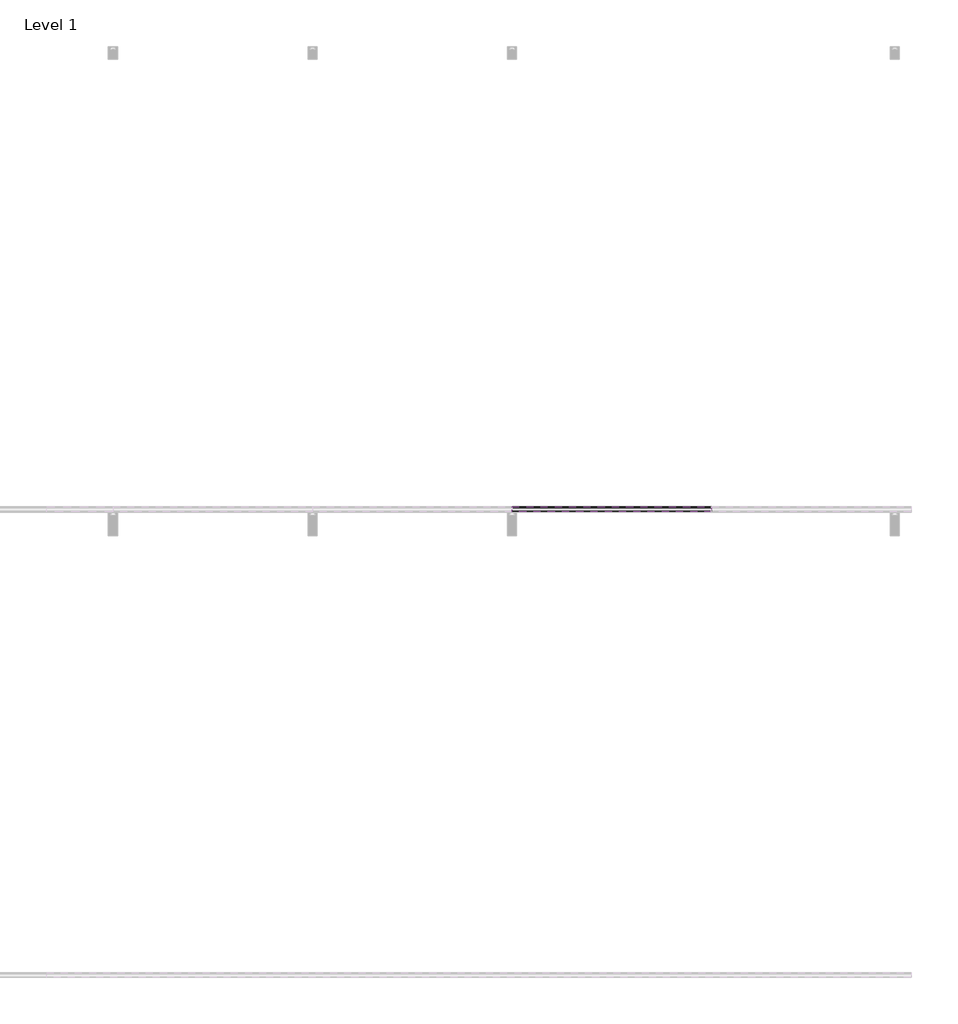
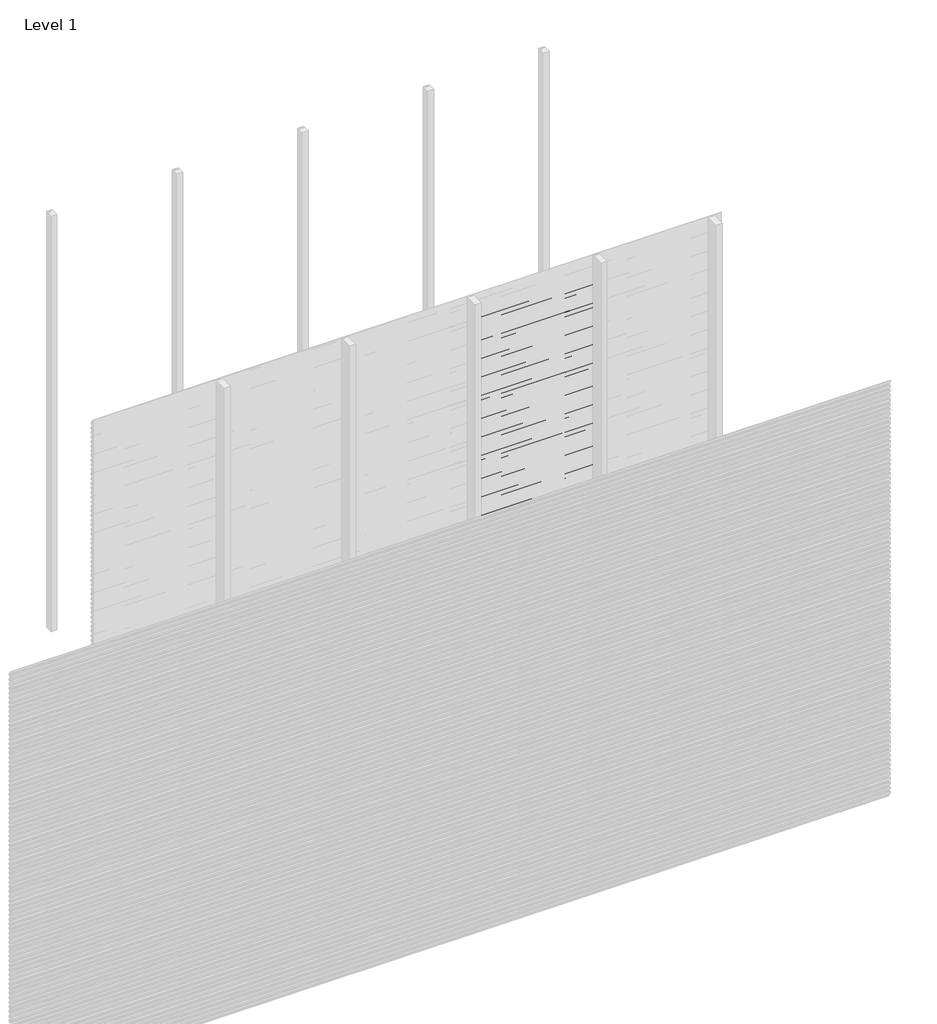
# One storey, part 39 of 96: 76 proxies.
"""IFC4 building model written with IfcOpenShell, lengths in millimetres."""

import ifcopenshell
import ifcopenshell.guid

model = None  # the IFC model being written
_history = None  # IfcOwnerHistory: only IFC2X3 demands one
_inside = {}  # id of a spatial element -> (the spatial element, [elements in it])
_under = {}  # id of a project, library or spatial element -> (it, [spatial elements below it])
_declared = {}  # id of a project -> (the project, [libraries it declares])
_typed = {}  # id of a type object -> (the type object, [elements of that type])
_made_of = {}  # id of a material, layer set ... -> (it, [elements and type objects made of it])


def new_model(schema):
    """Start an empty IFC model of exactly this schema.

    Asked for "IFC4X3", IfcOpenShell would pick the latest addendum, in which some entities
    have other attributes; the version numbers below select the first issue.
    IFC2X3 requires an IfcOwnerHistory on every rooted entity: one is made here for all.
    """
    global model, _history
    if schema == "IFC4X3":
        model = ifcopenshell.file(schema_version=(4, 3, 0, 0))
    else:
        model = ifcopenshell.file(schema=schema)
    _inside.clear()
    _under.clear()
    _declared.clear()
    _typed.clear()
    _made_of.clear()
    _history = None
    if model.schema == "IFC2X3":
        org = make("IfcOrganization", Name="unknown")
        user = make(
            "IfcPersonAndOrganization",
            ThePerson=make("IfcPerson", FamilyName="unknown"),
            TheOrganization=org,
        )
        app = make(
            "IfcApplication",
            ApplicationDeveloper=org,
            Version="unknown",
            ApplicationFullName="unknown",
            ApplicationIdentifier="unknown",
        )
        _history = make(
            "IfcOwnerHistory",
            OwningUser=user,
            OwningApplication=app,
            ChangeAction="ADDED",
            CreationDate=0,
        )
    return model


def make(cls, **values):
    """One entity of the class cls with the attributes given. An attribute that is None is left unset."""
    return model.create_entity(
        cls, **{name: value for name, value in values.items() if value is not None}
    )


def rooted(cls, **values):
    """An entity with a GlobalId (a new one), such as an element, a storey or a relation."""
    return make(cls, GlobalId=ifcopenshell.guid.new(), OwnerHistory=_history, **values)


def si_unit(unit_type, name, prefix=None):
    """IfcSIUnit, for example si_unit("LENGTHUNIT", "METRE", prefix="MILLI")."""
    return make("IfcSIUnit", UnitType=unit_type, Prefix=prefix, Name=name)


def assignment(units):
    """IfcUnitAssignment: the units of a project."""
    return None if units is None else make("IfcUnitAssignment", Units=units)


def point(xyz):
    """IfcCartesianPoint."""
    return None if xyz is None else make("IfcCartesianPoint", Coordinates=xyz)


def direction(xyz):
    """IfcDirection."""
    return None if xyz is None else make("IfcDirection", DirectionRatios=xyz)


def frame(location, z_axis=None, x_axis=None):
    """IfcAxis2Placement3D, a coordinate frame: its origin and axes. An axis left out is left unset."""
    return make(
        "IfcAxis2Placement3D",
        Location=point(location),
        Axis=direction(z_axis),
        RefDirection=direction(x_axis),
    )


def origin():
    """The frame at (0, 0, 0) with its axes left unset."""
    return frame((0.0, 0.0, 0.0))


def place(relative_to, where):
    """IfcLocalPlacement: puts the frame where relative to a parent placement (None: the world)."""
    return make(
        "IfcLocalPlacement", PlacementRelTo=relative_to, RelativePlacement=where
    )


def context(
    kind, dimensions, precision=None, world=None, true_north=None, identifier=None
):
    """IfcGeometricRepresentationContext, for example the 3D "Model" context."""
    return make(
        "IfcGeometricRepresentationContext",
        ContextIdentifier=identifier,
        ContextType=kind,
        CoordinateSpaceDimension=dimensions,
        Precision=precision,
        WorldCoordinateSystem=world,
        TrueNorth=true_north,
    )


def project(units=None, contexts=None):
    """IfcProject with its units and contexts."""
    return rooted(
        "IfcProject",
        Name="project",
        RepresentationContexts=contexts,
        UnitsInContext=assignment(units),
    )


def spatial(cls, under=None, at=None, **own):
    """A site, building, storey or space (cls), placed at a placement, below another one or the project."""
    s = rooted(cls, ObjectPlacement=at, **own)
    if under is not None:
        _under.setdefault(under.id(), (under, []))[1].append(s)
    return s


def polyline(points):
    """IfcPolyline through the points."""
    return make("IfcPolyline", Points=[point(p) for p in points])


def outline(outer, holes=None, kind="AREA"):
    """IfcArbitraryClosedProfileDef: a profile drawn as a closed curve; with holes, ...WithVoids."""
    if holes is None:
        return make("IfcArbitraryClosedProfileDef", ProfileType=kind, OuterCurve=outer)
    return make(
        "IfcArbitraryProfileDefWithVoids",
        ProfileType=kind,
        OuterCurve=outer,
        InnerCurves=holes,
    )


def extrude(swept, where, along, depth):
    """IfcExtrudedAreaSolid: the profile swept, set in the frame where, extruded along a direction by depth."""
    return make(
        "IfcExtrudedAreaSolid",
        SweptArea=swept,
        Position=where,
        ExtrudedDirection=direction(along),
        Depth=depth,
    )


def shape(context_of_items, identifier, shape_type, items):
    """IfcShapeRepresentation: the items that make up one representation, for example the "Body"."""
    return make(
        "IfcShapeRepresentation",
        ContextOfItems=context_of_items,
        RepresentationIdentifier=identifier,
        RepresentationType=shape_type,
        Items=items,
    )


def made_of(thing, what):
    """Note that an element or type object is made of a material, layer set ...; save() writes the relation."""
    if what is not None:
        _made_of.setdefault(what.id(), (what, []))[1].append(thing)
    return thing


def element(
    cls,
    number,
    at=None,
    inside=None,
    cuts=None,
    type_object=None,
    material=None,
    context=None,
    identifier="Body",
    shape_type=None,
    held_by="IfcProductDefinitionShape",
    body=None,
    shapes=None,
    **own,
):
    """One element of the class cls, such as IfcWall. Its Tag is "e" and its number.

    at: its placement. inside: the storey or other place that contains it. cuts: it is an
    opening in that element (IfcRelVoidsElement). A single representation is given by context,
    identifier, shape_type and body (its items); several are given by shapes. held_by: the class
    of the entity that holds the representations. save() writes the other relations.
    """
    e = rooted(cls, Tag="e%d" % number, ObjectPlacement=at, **own)
    if body is not None:
        shapes = [shape(context, identifier, shape_type, body)]
    if shapes is not None:
        e.Representation = make(held_by, Representations=shapes)
    if inside is not None:
        _inside.setdefault(inside.id(), (inside, []))[1].append(e)
    if cuts is not None:
        rooted(
            "IfcRelVoidsElement", RelatingBuildingElement=cuts, RelatedOpeningElement=e
        )
    if type_object is not None:
        _typed.setdefault(type_object.id(), (type_object, []))[1].append(e)
    return made_of(e, material)


def aggregate(whole, parts):
    """IfcRelAggregates: a whole, such as a stair, and the parts it consists of."""
    return rooted("IfcRelAggregates", RelatingObject=whole, RelatedObjects=parts)


def save(model, path):
    """Write the relations noted so far, then the file.

    IfcRelAggregates (storeys below a building ...), IfcRelContainedInSpatialStructure (elements
    in a storey), IfcRelDefinesByType, IfcRelAssociatesMaterial and IfcRelDeclares: one each for
    every whole, place, type object, material and project.
    """
    for whole, parts in _under.values():
        aggregate(whole, parts)
    for where, things in _inside.values():
        rooted(
            "IfcRelContainedInSpatialStructure",
            RelatedElements=things,
            RelatingStructure=where,
        )
    for kind, things in _typed.values():
        rooted("IfcRelDefinesByType", RelatedObjects=things, RelatingType=kind)
    for what, things in _made_of.values():
        rooted("IfcRelAssociatesMaterial", RelatedObjects=things, RelatingMaterial=what)
    for by, libraries in _declared.values():
        rooted("IfcRelDeclares", RelatingContext=by, RelatedDefinitions=libraries)
    model.write(path)


model = new_model("IFC4")

# Units and contexts
model_context = context("Model", 3, world=origin())
ifc_project = project(units=[si_unit("LENGTHUNIT", "METRE", prefix="MILLI")], contexts=[model_context])

# Site, building, storey
site = spatial("IfcSite", under=ifc_project)
building = spatial("IfcBuilding", under=site)
storey = spatial("IfcBuildingStorey", under=building, Name="Level 1", Elevation=0.0)

# Proxies
placement = place(None, origin())
element("IfcBuildingElementProxy", 1, Name="Wall Sweeps", at=placement, inside=storey, context=model_context, shape_type="SweptSolid", body=[
    extrude(outline(polyline([(-35977.6, 2871.8655033), (-35977.6, 2857.5779188), (-35982.4114965, 2854.8), (-35982.4114965, 2856.0701706), (-35978.85, 2858.1264016), (-35978.85, 2871.1437382), (-35998.0, 2882.2000799), (-35998.0, 2897.1), (-35996.75, 2897.1), (-35996.75, 2882.9217609), (-35977.6, 2871.8655033)])), frame((4285.7142857, 0.0, 0.0), z_axis=(1.0, 0.0, 0.0), x_axis=(0.0, 1.0, 0.0)), (0.0, 0.0, 1.0), 857.1428571),
])
element("IfcBuildingElementProxy", 2, Name="Wall Sweeps", at=placement, inside=storey, context=model_context, shape_type="SweptSolid", body=[
    extrude(outline(polyline([(-35977.6, 2838.5655033), (-35977.6, 2824.2779188), (-35982.4114965, 2821.5), (-35982.4114965, 2822.7701706), (-35978.85, 2824.8264016), (-35978.85, 2837.8437382), (-35998.0, 2848.9000799), (-35998.0, 2863.8), (-35996.75, 2863.8), (-35996.75, 2849.6217609), (-35977.6, 2838.5655033)])), frame((4285.7142857, 0.0, 0.0), z_axis=(1.0, 0.0, 0.0), x_axis=(0.0, 1.0, 0.0)), (0.0, 0.0, 1.0), 857.1428571),
])
element("IfcBuildingElementProxy", 3, Name="Wall Sweeps", at=placement, inside=storey, context=model_context, shape_type="SweptSolid", body=[
    extrude(outline(polyline([(-35977.6, 2805.2655033), (-35977.6, 2790.9779188), (-35982.4114965, 2788.2), (-35982.4114965, 2789.4701706), (-35978.85, 2791.5264016), (-35978.85, 2804.5437382), (-35998.0, 2815.6000799), (-35998.0, 2830.5), (-35996.75, 2830.5), (-35996.75, 2816.3217609), (-35977.6, 2805.2655033)])), frame((4285.7142857, 0.0, 0.0), z_axis=(1.0, 0.0, 0.0), x_axis=(0.0, 1.0, 0.0)), (0.0, 0.0, 1.0), 857.1428571),
])
element("IfcBuildingElementProxy", 4, Name="Wall Sweeps", at=placement, inside=storey, context=model_context, shape_type="SweptSolid", body=[
    extrude(outline(polyline([(-35977.6, 2771.9655033), (-35977.6, 2757.6779188), (-35982.4114965, 2754.9), (-35982.4114965, 2756.1701706), (-35978.85, 2758.2264016), (-35978.85, 2771.2437382), (-35998.0, 2782.3000799), (-35998.0, 2797.2), (-35996.75, 2797.2), (-35996.75, 2783.0217609), (-35977.6, 2771.9655033)])), frame((4285.7142857, 0.0, 0.0), z_axis=(1.0, 0.0, 0.0), x_axis=(0.0, 1.0, 0.0)), (0.0, 0.0, 1.0), 857.1428571),
])
element("IfcBuildingElementProxy", 5, Name="Wall Sweeps", at=placement, inside=storey, context=model_context, shape_type="SweptSolid", body=[
    extrude(outline(polyline([(-35977.6, 2738.6655033), (-35977.6, 2724.3779188), (-35982.4114965, 2721.6), (-35982.4114965, 2722.8701706), (-35978.85, 2724.9264016), (-35978.85, 2737.9437382), (-35998.0, 2749.0000799), (-35998.0, 2763.9), (-35996.75, 2763.9), (-35996.75, 2749.7217609), (-35977.6, 2738.6655033)])), frame((4285.7142857, 0.0, 0.0), z_axis=(1.0, 0.0, 0.0), x_axis=(0.0, 1.0, 0.0)), (0.0, 0.0, 1.0), 857.1428571),
])
element("IfcBuildingElementProxy", 6, Name="Wall Sweeps", at=placement, inside=storey, context=model_context, shape_type="SweptSolid", body=[
    extrude(outline(polyline([(-35977.6, 2705.3655033), (-35977.6, 2691.0779188), (-35982.4114965, 2688.3), (-35982.4114965, 2689.5701706), (-35978.85, 2691.6264016), (-35978.85, 2704.6437382), (-35998.0, 2715.7000799), (-35998.0, 2730.6), (-35996.75, 2730.6), (-35996.75, 2716.4217609), (-35977.6, 2705.3655033)])), frame((4285.7142857, 0.0, 0.0), z_axis=(1.0, 0.0, 0.0), x_axis=(0.0, 1.0, 0.0)), (0.0, 0.0, 1.0), 857.1428571),
])
element("IfcBuildingElementProxy", 7, Name="Wall Sweeps", at=placement, inside=storey, context=model_context, shape_type="SweptSolid", body=[
    extrude(outline(polyline([(-35977.6, 2672.0655033), (-35977.6, 2657.7779188), (-35982.4114965, 2655.0), (-35982.4114965, 2656.2701706), (-35978.85, 2658.3264016), (-35978.85, 2671.3437382), (-35998.0, 2682.4000799), (-35998.0, 2697.3), (-35996.75, 2697.3), (-35996.75, 2683.1217609), (-35977.6, 2672.0655033)])), frame((4285.7142857, 0.0, 0.0), z_axis=(1.0, 0.0, 0.0), x_axis=(0.0, 1.0, 0.0)), (0.0, 0.0, 1.0), 857.1428571),
])
element("IfcBuildingElementProxy", 8, Name="Wall Sweeps", at=placement, inside=storey, context=model_context, shape_type="SweptSolid", body=[
    extrude(outline(polyline([(-35977.6, 2638.7655033), (-35977.6, 2624.4779188), (-35982.4114965, 2621.7), (-35982.4114965, 2622.9701706), (-35978.85, 2625.0264016), (-35978.85, 2638.0437382), (-35998.0, 2649.1000799), (-35998.0, 2664.0), (-35996.75, 2664.0), (-35996.75, 2649.8217609), (-35977.6, 2638.7655033)])), frame((4285.7142857, 0.0, 0.0), z_axis=(1.0, 0.0, 0.0), x_axis=(0.0, 1.0, 0.0)), (0.0, 0.0, 1.0), 857.1428571),
])
element("IfcBuildingElementProxy", 9, Name="Wall Sweeps", at=placement, inside=storey, context=model_context, shape_type="SweptSolid", body=[
    extrude(outline(polyline([(-35977.6, 2605.4655033), (-35977.6, 2591.1779188), (-35982.4114965, 2588.4), (-35982.4114965, 2589.6701706), (-35978.85, 2591.7264016), (-35978.85, 2604.7437382), (-35998.0, 2615.8000799), (-35998.0, 2630.7), (-35996.75, 2630.7), (-35996.75, 2616.5217609), (-35977.6, 2605.4655033)])), frame((4285.7142857, 0.0, 0.0), z_axis=(1.0, 0.0, 0.0), x_axis=(0.0, 1.0, 0.0)), (0.0, 0.0, 1.0), 857.1428571),
])
element("IfcBuildingElementProxy", 10, Name="Wall Sweeps", at=placement, inside=storey, context=model_context, shape_type="SweptSolid", body=[
    extrude(outline(polyline([(-35977.6, 2572.1655033), (-35977.6, 2557.8779188), (-35982.4114965, 2555.1), (-35982.4114965, 2556.3701706), (-35978.85, 2558.4264016), (-35978.85, 2571.4437382), (-35998.0, 2582.5000799), (-35998.0, 2597.4), (-35996.75, 2597.4), (-35996.75, 2583.2217609), (-35977.6, 2572.1655033)])), frame((4285.7142857, 0.0, 0.0), z_axis=(1.0, 0.0, 0.0), x_axis=(0.0, 1.0, 0.0)), (0.0, 0.0, 1.0), 857.1428571),
])
element("IfcBuildingElementProxy", 11, Name="Wall Sweeps", at=placement, inside=storey, context=model_context, shape_type="SweptSolid", body=[
    extrude(outline(polyline([(-35977.6, 2538.8655033), (-35977.6, 2524.5779188), (-35982.4114965, 2521.8), (-35982.4114965, 2523.0701706), (-35978.85, 2525.1264016), (-35978.85, 2538.1437382), (-35998.0, 2549.2000799), (-35998.0, 2564.1), (-35996.75, 2564.1), (-35996.75, 2549.9217609), (-35977.6, 2538.8655033)])), frame((4285.7142857, 0.0, 0.0), z_axis=(1.0, 0.0, 0.0), x_axis=(0.0, 1.0, 0.0)), (0.0, 0.0, 1.0), 857.1428571),
])
element("IfcBuildingElementProxy", 12, Name="Wall Sweeps", at=placement, inside=storey, context=model_context, shape_type="SweptSolid", body=[
    extrude(outline(polyline([(-35977.6, 2505.5655033), (-35977.6, 2491.2779188), (-35982.4114965, 2488.5), (-35982.4114965, 2489.7701706), (-35978.85, 2491.8264016), (-35978.85, 2504.8437382), (-35998.0, 2515.9000799), (-35998.0, 2530.8), (-35996.75, 2530.8), (-35996.75, 2516.6217609), (-35977.6, 2505.5655033)])), frame((4285.7142857, 0.0, 0.0), z_axis=(1.0, 0.0, 0.0), x_axis=(0.0, 1.0, 0.0)), (0.0, 0.0, 1.0), 857.1428571),
])
element("IfcBuildingElementProxy", 13, Name="Wall Sweeps", at=placement, inside=storey, context=model_context, shape_type="SweptSolid", body=[
    extrude(outline(polyline([(-35977.6, 2472.2655033), (-35977.6, 2457.9779188), (-35982.4114965, 2455.2), (-35982.4114965, 2456.4701706), (-35978.85, 2458.5264016), (-35978.85, 2471.5437382), (-35998.0, 2482.6000799), (-35998.0, 2497.5), (-35996.75, 2497.5), (-35996.75, 2483.3217609), (-35977.6, 2472.2655033)])), frame((4285.7142857, 0.0, 0.0), z_axis=(1.0, 0.0, 0.0), x_axis=(0.0, 1.0, 0.0)), (0.0, 0.0, 1.0), 857.1428571),
])
element("IfcBuildingElementProxy", 14, Name="Wall Sweeps", at=placement, inside=storey, context=model_context, shape_type="SweptSolid", body=[
    extrude(outline(polyline([(-35977.6, 2438.9655033), (-35977.6, 2424.6779188), (-35982.4114965, 2421.9), (-35982.4114965, 2423.1701706), (-35978.85, 2425.2264016), (-35978.85, 2438.2437382), (-35998.0, 2449.3000799), (-35998.0, 2464.2), (-35996.75, 2464.2), (-35996.75, 2450.0217609), (-35977.6, 2438.9655033)])), frame((4285.7142857, 0.0, 0.0), z_axis=(1.0, 0.0, 0.0), x_axis=(0.0, 1.0, 0.0)), (0.0, 0.0, 1.0), 857.1428571),
])
element("IfcBuildingElementProxy", 15, Name="Wall Sweeps", at=placement, inside=storey, context=model_context, shape_type="SweptSolid", body=[
    extrude(outline(polyline([(-35977.6, 2405.6655033), (-35977.6, 2391.3779188), (-35982.4114965, 2388.6), (-35982.4114965, 2389.8701706), (-35978.85, 2391.9264016), (-35978.85, 2404.9437382), (-35998.0, 2416.0000799), (-35998.0, 2430.9), (-35996.75, 2430.9), (-35996.75, 2416.7217609), (-35977.6, 2405.6655033)])), frame((4285.7142857, 0.0, 0.0), z_axis=(1.0, 0.0, 0.0), x_axis=(0.0, 1.0, 0.0)), (0.0, 0.0, 1.0), 857.1428571),
])
element("IfcBuildingElementProxy", 16, Name="Wall Sweeps", at=placement, inside=storey, context=model_context, shape_type="SweptSolid", body=[
    extrude(outline(polyline([(-35977.6, 2372.3655033), (-35977.6, 2358.0779188), (-35982.4114965, 2355.3), (-35982.4114965, 2356.5701706), (-35978.85, 2358.6264016), (-35978.85, 2371.6437382), (-35998.0, 2382.7000799), (-35998.0, 2397.6), (-35996.75, 2397.6), (-35996.75, 2383.4217609), (-35977.6, 2372.3655033)])), frame((4285.7142857, 0.0, 0.0), z_axis=(1.0, 0.0, 0.0), x_axis=(0.0, 1.0, 0.0)), (0.0, 0.0, 1.0), 857.1428571),
])
element("IfcBuildingElementProxy", 17, Name="Wall Sweeps", at=placement, inside=storey, context=model_context, shape_type="SweptSolid", body=[
    extrude(outline(polyline([(-35977.6, 2339.0655033), (-35977.6, 2324.7779188), (-35982.4114965, 2322.0), (-35982.4114965, 2323.2701706), (-35978.85, 2325.3264016), (-35978.85, 2338.3437382), (-35998.0, 2349.4000799), (-35998.0, 2364.3), (-35996.75, 2364.3), (-35996.75, 2350.1217609), (-35977.6, 2339.0655033)])), frame((4285.7142857, 0.0, 0.0), z_axis=(1.0, 0.0, 0.0), x_axis=(0.0, 1.0, 0.0)), (0.0, 0.0, 1.0), 857.1428571),
])
element("IfcBuildingElementProxy", 18, Name="Wall Sweeps", at=placement, inside=storey, context=model_context, shape_type="SweptSolid", body=[
    extrude(outline(polyline([(-35977.6, 2305.7655033), (-35977.6, 2291.4779188), (-35982.4114965, 2288.7), (-35982.4114965, 2289.9701706), (-35978.85, 2292.0264016), (-35978.85, 2305.0437382), (-35998.0, 2316.1000799), (-35998.0, 2331.0), (-35996.75, 2331.0), (-35996.75, 2316.8217609), (-35977.6, 2305.7655033)])), frame((4285.7142857, 0.0, 0.0), z_axis=(1.0, 0.0, 0.0), x_axis=(0.0, 1.0, 0.0)), (0.0, 0.0, 1.0), 857.1428571),
])
element("IfcBuildingElementProxy", 19, Name="Wall Sweeps", at=placement, inside=storey, context=model_context, shape_type="SweptSolid", body=[
    extrude(outline(polyline([(-35977.6, 2272.4655033), (-35977.6, 2258.1779188), (-35982.4114965, 2255.4), (-35982.4114965, 2256.6701706), (-35978.85, 2258.7264016), (-35978.85, 2271.7437382), (-35998.0, 2282.8000799), (-35998.0, 2297.7), (-35996.75, 2297.7), (-35996.75, 2283.5217609), (-35977.6, 2272.4655033)])), frame((4285.7142857, 0.0, 0.0), z_axis=(1.0, 0.0, 0.0), x_axis=(0.0, 1.0, 0.0)), (0.0, 0.0, 1.0), 857.1428571),
])
element("IfcBuildingElementProxy", 20, Name="Wall Sweeps", at=placement, inside=storey, context=model_context, shape_type="SweptSolid", body=[
    extrude(outline(polyline([(-35977.6, 2239.1655033), (-35977.6, 2224.8779188), (-35982.4114965, 2222.1), (-35982.4114965, 2223.3701706), (-35978.85, 2225.4264016), (-35978.85, 2238.4437382), (-35998.0, 2249.5000799), (-35998.0, 2264.4), (-35996.75, 2264.4), (-35996.75, 2250.2217609), (-35977.6, 2239.1655033)])), frame((4285.7142857, 0.0, 0.0), z_axis=(1.0, 0.0, 0.0), x_axis=(0.0, 1.0, 0.0)), (0.0, 0.0, 1.0), 857.1428571),
])
element("IfcBuildingElementProxy", 21, Name="Wall Sweeps", at=placement, inside=storey, context=model_context, shape_type="SweptSolid", body=[
    extrude(outline(polyline([(-35977.6, 2205.8655033), (-35977.6, 2191.5779188), (-35982.4114965, 2188.8), (-35982.4114965, 2190.0701706), (-35978.85, 2192.1264016), (-35978.85, 2205.1437382), (-35998.0, 2216.2000799), (-35998.0, 2231.1), (-35996.75, 2231.1), (-35996.75, 2216.9217609), (-35977.6, 2205.8655033)])), frame((4285.7142857, 0.0, 0.0), z_axis=(1.0, 0.0, 0.0), x_axis=(0.0, 1.0, 0.0)), (0.0, 0.0, 1.0), 857.1428571),
])
element("IfcBuildingElementProxy", 22, Name="Wall Sweeps", at=placement, inside=storey, context=model_context, shape_type="SweptSolid", body=[
    extrude(outline(polyline([(-35977.6, 2172.5655033), (-35977.6, 2158.2779188), (-35982.4114965, 2155.5), (-35982.4114965, 2156.7701706), (-35978.85, 2158.8264016), (-35978.85, 2171.8437382), (-35998.0, 2182.9000799), (-35998.0, 2197.8), (-35996.75, 2197.8), (-35996.75, 2183.6217609), (-35977.6, 2172.5655033)])), frame((4285.7142857, 0.0, 0.0), z_axis=(1.0, 0.0, 0.0), x_axis=(0.0, 1.0, 0.0)), (0.0, 0.0, 1.0), 857.1428571),
])
element("IfcBuildingElementProxy", 23, Name="Wall Sweeps", at=placement, inside=storey, context=model_context, shape_type="SweptSolid", body=[
    extrude(outline(polyline([(-35977.6, 2139.2655033), (-35977.6, 2124.9779188), (-35982.4114965, 2122.2), (-35982.4114965, 2123.4701706), (-35978.85, 2125.5264016), (-35978.85, 2138.5437382), (-35998.0, 2149.6000799), (-35998.0, 2164.5), (-35996.75, 2164.5), (-35996.75, 2150.3217609), (-35977.6, 2139.2655033)])), frame((4285.7142857, 0.0, 0.0), z_axis=(1.0, 0.0, 0.0), x_axis=(0.0, 1.0, 0.0)), (0.0, 0.0, 1.0), 857.1428571),
])
element("IfcBuildingElementProxy", 24, Name="Wall Sweeps", at=placement, inside=storey, context=model_context, shape_type="SweptSolid", body=[
    extrude(outline(polyline([(-35977.6, 2105.9655033), (-35977.6, 2091.6779188), (-35982.4114965, 2088.9), (-35982.4114965, 2090.1701706), (-35978.85, 2092.2264016), (-35978.85, 2105.2437382), (-35998.0, 2116.3000799), (-35998.0, 2131.2), (-35996.75, 2131.2), (-35996.75, 2117.0217609), (-35977.6, 2105.9655033)])), frame((4285.7142857, 0.0, 0.0), z_axis=(1.0, 0.0, 0.0), x_axis=(0.0, 1.0, 0.0)), (0.0, 0.0, 1.0), 857.1428571),
])
element("IfcBuildingElementProxy", 25, Name="Wall Sweeps", at=placement, inside=storey, context=model_context, shape_type="SweptSolid", body=[
    extrude(outline(polyline([(-35977.6, 2072.6655033), (-35977.6, 2058.3779188), (-35982.4114965, 2055.6), (-35982.4114965, 2056.8701706), (-35978.85, 2058.9264016), (-35978.85, 2071.9437382), (-35998.0, 2083.0000799), (-35998.0, 2097.9), (-35996.75, 2097.9), (-35996.75, 2083.7217609), (-35977.6, 2072.6655033)])), frame((4285.7142857, 0.0, 0.0), z_axis=(1.0, 0.0, 0.0), x_axis=(0.0, 1.0, 0.0)), (0.0, 0.0, 1.0), 857.1428571),
])
element("IfcBuildingElementProxy", 26, Name="Wall Sweeps", at=placement, inside=storey, context=model_context, shape_type="SweptSolid", body=[
    extrude(outline(polyline([(-35977.6, 2039.3655033), (-35977.6, 2025.0779188), (-35982.4114965, 2022.3), (-35982.4114965, 2023.5701706), (-35978.85, 2025.6264016), (-35978.85, 2038.6437382), (-35998.0, 2049.7000799), (-35998.0, 2064.6), (-35996.75, 2064.6), (-35996.75, 2050.4217609), (-35977.6, 2039.3655033)])), frame((4285.7142857, 0.0, 0.0), z_axis=(1.0, 0.0, 0.0), x_axis=(0.0, 1.0, 0.0)), (0.0, 0.0, 1.0), 857.1428571),
])
element("IfcBuildingElementProxy", 27, Name="Wall Sweeps", at=placement, inside=storey, context=model_context, shape_type="SweptSolid", body=[
    extrude(outline(polyline([(-35977.6, 2006.0655033), (-35977.6, 1991.7779188), (-35982.4114965, 1989.0), (-35982.4114965, 1990.2701706), (-35978.85, 1992.3264016), (-35978.85, 2005.3437382), (-35998.0, 2016.4000799), (-35998.0, 2031.3), (-35996.75, 2031.3), (-35996.75, 2017.1217609), (-35977.6, 2006.0655033)])), frame((4285.7142857, 0.0, 0.0), z_axis=(1.0, 0.0, 0.0), x_axis=(0.0, 1.0, 0.0)), (0.0, 0.0, 1.0), 857.1428571),
])
element("IfcBuildingElementProxy", 28, Name="Wall Sweeps", at=placement, inside=storey, context=model_context, shape_type="SweptSolid", body=[
    extrude(outline(polyline([(-35977.6, 1972.7655033), (-35977.6, 1958.4779188), (-35982.4114965, 1955.7), (-35982.4114965, 1956.9701706), (-35978.85, 1959.0264016), (-35978.85, 1972.0437382), (-35998.0, 1983.1000799), (-35998.0, 1998.0), (-35996.75, 1998.0), (-35996.75, 1983.8217609), (-35977.6, 1972.7655033)])), frame((4285.7142857, 0.0, 0.0), z_axis=(1.0, 0.0, 0.0), x_axis=(0.0, 1.0, 0.0)), (0.0, 0.0, 1.0), 857.1428571),
])
element("IfcBuildingElementProxy", 29, Name="Wall Sweeps", at=placement, inside=storey, context=model_context, shape_type="SweptSolid", body=[
    extrude(outline(polyline([(-35977.6, 1939.4655033), (-35977.6, 1925.1779188), (-35982.4114965, 1922.4), (-35982.4114965, 1923.6701706), (-35978.85, 1925.7264016), (-35978.85, 1938.7437382), (-35998.0, 1949.8000799), (-35998.0, 1964.7), (-35996.75, 1964.7), (-35996.75, 1950.5217609), (-35977.6, 1939.4655033)])), frame((4285.7142857, 0.0, 0.0), z_axis=(1.0, 0.0, 0.0), x_axis=(0.0, 1.0, 0.0)), (0.0, 0.0, 1.0), 857.1428571),
])
element("IfcBuildingElementProxy", 30, Name="Wall Sweeps", at=placement, inside=storey, context=model_context, shape_type="SweptSolid", body=[
    extrude(outline(polyline([(-35977.6, 1906.1655033), (-35977.6, 1891.8779188), (-35982.4114965, 1889.1), (-35982.4114965, 1890.3701706), (-35978.85, 1892.4264016), (-35978.85, 1905.4437382), (-35998.0, 1916.5000799), (-35998.0, 1931.4), (-35996.75, 1931.4), (-35996.75, 1917.2217609), (-35977.6, 1906.1655033)])), frame((4285.7142857, 0.0, 0.0), z_axis=(1.0, 0.0, 0.0), x_axis=(0.0, 1.0, 0.0)), (0.0, 0.0, 1.0), 857.1428571),
])
element("IfcBuildingElementProxy", 31, Name="Wall Sweeps", at=placement, inside=storey, context=model_context, shape_type="SweptSolid", body=[
    extrude(outline(polyline([(-35977.6, 1872.8655033), (-35977.6, 1858.5779188), (-35982.4114965, 1855.8), (-35982.4114965, 1857.0701706), (-35978.85, 1859.1264016), (-35978.85, 1872.1437382), (-35998.0, 1883.2000799), (-35998.0, 1898.1), (-35996.75, 1898.1), (-35996.75, 1883.9217609), (-35977.6, 1872.8655033)])), frame((4285.7142857, 0.0, 0.0), z_axis=(1.0, 0.0, 0.0), x_axis=(0.0, 1.0, 0.0)), (0.0, 0.0, 1.0), 857.1428571),
])
element("IfcBuildingElementProxy", 32, Name="Wall Sweeps", at=placement, inside=storey, context=model_context, shape_type="SweptSolid", body=[
    extrude(outline(polyline([(-35977.6, 1839.5655033), (-35977.6, 1825.2779188), (-35982.4114965, 1822.5), (-35982.4114965, 1823.7701706), (-35978.85, 1825.8264016), (-35978.85, 1838.8437382), (-35998.0, 1849.9000799), (-35998.0, 1864.8), (-35996.75, 1864.8), (-35996.75, 1850.6217609), (-35977.6, 1839.5655033)])), frame((4285.7142857, 0.0, 0.0), z_axis=(1.0, 0.0, 0.0), x_axis=(0.0, 1.0, 0.0)), (0.0, 0.0, 1.0), 857.1428571),
])
element("IfcBuildingElementProxy", 33, Name="Wall Sweeps", at=placement, inside=storey, context=model_context, shape_type="SweptSolid", body=[
    extrude(outline(polyline([(-35977.6, 1806.2655033), (-35977.6, 1791.9779188), (-35982.4114965, 1789.2), (-35982.4114965, 1790.4701706), (-35978.85, 1792.5264016), (-35978.85, 1805.5437382), (-35998.0, 1816.6000799), (-35998.0, 1831.5), (-35996.75, 1831.5), (-35996.75, 1817.3217609), (-35977.6, 1806.2655033)])), frame((4285.7142857, 0.0, 0.0), z_axis=(1.0, 0.0, 0.0), x_axis=(0.0, 1.0, 0.0)), (0.0, 0.0, 1.0), 857.1428571),
])
element("IfcBuildingElementProxy", 34, Name="Wall Sweeps", at=placement, inside=storey, context=model_context, shape_type="SweptSolid", body=[
    extrude(outline(polyline([(-35977.6, 1772.9655033), (-35977.6, 1758.6779188), (-35982.4114965, 1755.9), (-35982.4114965, 1757.1701706), (-35978.85, 1759.2264016), (-35978.85, 1772.2437382), (-35998.0, 1783.3000799), (-35998.0, 1798.2), (-35996.75, 1798.2), (-35996.75, 1784.0217609), (-35977.6, 1772.9655033)])), frame((4285.7142857, 0.0, 0.0), z_axis=(1.0, 0.0, 0.0), x_axis=(0.0, 1.0, 0.0)), (0.0, 0.0, 1.0), 857.1428571),
])
element("IfcBuildingElementProxy", 35, Name="Wall Sweeps", at=placement, inside=storey, context=model_context, shape_type="SweptSolid", body=[
    extrude(outline(polyline([(-35977.6, 1739.6655033), (-35977.6, 1725.3779188), (-35982.4114965, 1722.6), (-35982.4114965, 1723.8701706), (-35978.85, 1725.9264016), (-35978.85, 1738.9437382), (-35998.0, 1750.0000799), (-35998.0, 1764.9), (-35996.75, 1764.9), (-35996.75, 1750.7217609), (-35977.6, 1739.6655033)])), frame((4285.7142857, 0.0, 0.0), z_axis=(1.0, 0.0, 0.0), x_axis=(0.0, 1.0, 0.0)), (0.0, 0.0, 1.0), 857.1428571),
])
element("IfcBuildingElementProxy", 36, Name="Wall Sweeps", at=placement, inside=storey, context=model_context, shape_type="SweptSolid", body=[
    extrude(outline(polyline([(-35977.6, 1706.3655033), (-35977.6, 1692.0779188), (-35982.4114965, 1689.3), (-35982.4114965, 1690.5701706), (-35978.85, 1692.6264016), (-35978.85, 1705.6437382), (-35998.0, 1716.7000799), (-35998.0, 1731.6), (-35996.75, 1731.6), (-35996.75, 1717.4217609), (-35977.6, 1706.3655033)])), frame((4285.7142857, 0.0, 0.0), z_axis=(1.0, 0.0, 0.0), x_axis=(0.0, 1.0, 0.0)), (0.0, 0.0, 1.0), 857.1428571),
])
element("IfcBuildingElementProxy", 37, Name="Wall Sweeps", at=placement, inside=storey, context=model_context, shape_type="SweptSolid", body=[
    extrude(outline(polyline([(-35977.6, 1673.0655033), (-35977.6, 1658.7779188), (-35982.4114965, 1656.0), (-35982.4114965, 1657.2701706), (-35978.85, 1659.3264016), (-35978.85, 1672.3437382), (-35998.0, 1683.4000799), (-35998.0, 1698.3), (-35996.75, 1698.3), (-35996.75, 1684.1217609), (-35977.6, 1673.0655033)])), frame((4285.7142857, 0.0, 0.0), z_axis=(1.0, 0.0, 0.0), x_axis=(0.0, 1.0, 0.0)), (0.0, 0.0, 1.0), 857.1428571),
])
element("IfcBuildingElementProxy", 38, Name="Wall Sweeps", at=placement, inside=storey, context=model_context, shape_type="SweptSolid", body=[
    extrude(outline(polyline([(-35977.6, 1639.7655033), (-35977.6, 1625.4779188), (-35982.4114965, 1622.7), (-35982.4114965, 1623.9701706), (-35978.85, 1626.0264016), (-35978.85, 1639.0437382), (-35998.0, 1650.1000799), (-35998.0, 1665.0), (-35996.75, 1665.0), (-35996.75, 1650.8217609), (-35977.6, 1639.7655033)])), frame((4285.7142857, 0.0, 0.0), z_axis=(1.0, 0.0, 0.0), x_axis=(0.0, 1.0, 0.0)), (0.0, 0.0, 1.0), 857.1428571),
])
element("IfcBuildingElementProxy", 39, Name="Wall Sweeps", at=placement, inside=storey, context=model_context, shape_type="SweptSolid", body=[
    extrude(outline(polyline([(-35977.6, 1606.4655033), (-35977.6, 1592.1779188), (-35982.4114965, 1589.4), (-35982.4114965, 1590.6701706), (-35978.85, 1592.7264016), (-35978.85, 1605.7437382), (-35998.0, 1616.8000799), (-35998.0, 1631.7), (-35996.75, 1631.7), (-35996.75, 1617.5217609), (-35977.6, 1606.4655033)])), frame((4285.7142857, 0.0, 0.0), z_axis=(1.0, 0.0, 0.0), x_axis=(0.0, 1.0, 0.0)), (0.0, 0.0, 1.0), 857.1428571),
])
element("IfcBuildingElementProxy", 40, Name="Wall Sweeps", at=placement, inside=storey, context=model_context, shape_type="SweptSolid", body=[
    extrude(outline(polyline([(-35977.6, 1573.1655033), (-35977.6, 1558.8779188), (-35982.4114965, 1556.1), (-35982.4114965, 1557.3701706), (-35978.85, 1559.4264016), (-35978.85, 1572.4437382), (-35998.0, 1583.5000799), (-35998.0, 1598.4), (-35996.75, 1598.4), (-35996.75, 1584.2217609), (-35977.6, 1573.1655033)])), frame((4285.7142857, 0.0, 0.0), z_axis=(1.0, 0.0, 0.0), x_axis=(0.0, 1.0, 0.0)), (0.0, 0.0, 1.0), 857.1428571),
])
element("IfcBuildingElementProxy", 41, Name="Wall Sweeps", at=placement, inside=storey, context=model_context, shape_type="SweptSolid", body=[
    extrude(outline(polyline([(-35977.6, 1539.8655033), (-35977.6, 1525.5779188), (-35982.4114965, 1522.8), (-35982.4114965, 1524.0701706), (-35978.85, 1526.1264016), (-35978.85, 1539.1437382), (-35998.0, 1550.2000799), (-35998.0, 1565.1), (-35996.75, 1565.1), (-35996.75, 1550.9217609), (-35977.6, 1539.8655033)])), frame((4285.7142857, 0.0, 0.0), z_axis=(1.0, 0.0, 0.0), x_axis=(0.0, 1.0, 0.0)), (0.0, 0.0, 1.0), 857.1428571),
])
element("IfcBuildingElementProxy", 42, Name="Wall Sweeps", at=placement, inside=storey, context=model_context, shape_type="SweptSolid", body=[
    extrude(outline(polyline([(-35977.6, 1506.5655033), (-35977.6, 1492.2779188), (-35982.4114965, 1489.5), (-35982.4114965, 1490.7701706), (-35978.85, 1492.8264016), (-35978.85, 1505.8437382), (-35998.0, 1516.9000799), (-35998.0, 1531.8), (-35996.75, 1531.8), (-35996.75, 1517.6217609), (-35977.6, 1506.5655033)])), frame((4285.7142857, 0.0, 0.0), z_axis=(1.0, 0.0, 0.0), x_axis=(0.0, 1.0, 0.0)), (0.0, 0.0, 1.0), 857.1428571),
])
element("IfcBuildingElementProxy", 43, Name="Wall Sweeps", at=placement, inside=storey, context=model_context, shape_type="SweptSolid", body=[
    extrude(outline(polyline([(-35977.6, 1473.2655033), (-35977.6, 1458.9779188), (-35982.4114965, 1456.2), (-35982.4114965, 1457.4701706), (-35978.85, 1459.5264016), (-35978.85, 1472.5437382), (-35998.0, 1483.6000799), (-35998.0, 1498.5), (-35996.75, 1498.5), (-35996.75, 1484.3217609), (-35977.6, 1473.2655033)])), frame((4285.7142857, 0.0, 0.0), z_axis=(1.0, 0.0, 0.0), x_axis=(0.0, 1.0, 0.0)), (0.0, 0.0, 1.0), 857.1428571),
])
element("IfcBuildingElementProxy", 44, Name="Wall Sweeps", at=placement, inside=storey, context=model_context, shape_type="SweptSolid", body=[
    extrude(outline(polyline([(-35977.6, 1439.9655033), (-35977.6, 1425.6779188), (-35982.4114965, 1422.9), (-35982.4114965, 1424.1701706), (-35978.85, 1426.2264016), (-35978.85, 1439.2437382), (-35998.0, 1450.3000799), (-35998.0, 1465.2), (-35996.75, 1465.2), (-35996.75, 1451.0217609), (-35977.6, 1439.9655033)])), frame((4285.7142857, 0.0, 0.0), z_axis=(1.0, 0.0, 0.0), x_axis=(0.0, 1.0, 0.0)), (0.0, 0.0, 1.0), 857.1428571),
])
element("IfcBuildingElementProxy", 45, Name="Wall Sweeps", at=placement, inside=storey, context=model_context, shape_type="SweptSolid", body=[
    extrude(outline(polyline([(-35977.6, 1406.6655033), (-35977.6, 1392.3779188), (-35982.4114965, 1389.6), (-35982.4114965, 1390.8701706), (-35978.85, 1392.9264016), (-35978.85, 1405.9437382), (-35998.0, 1417.0000799), (-35998.0, 1431.9), (-35996.75, 1431.9), (-35996.75, 1417.7217609), (-35977.6, 1406.6655033)])), frame((4285.7142857, 0.0, 0.0), z_axis=(1.0, 0.0, 0.0), x_axis=(0.0, 1.0, 0.0)), (0.0, 0.0, 1.0), 857.1428571),
])
element("IfcBuildingElementProxy", 46, Name="Wall Sweeps", at=placement, inside=storey, context=model_context, shape_type="SweptSolid", body=[
    extrude(outline(polyline([(-35977.6, 1373.3655033), (-35977.6, 1359.0779188), (-35982.4114965, 1356.3), (-35982.4114965, 1357.5701706), (-35978.85, 1359.6264016), (-35978.85, 1372.6437382), (-35998.0, 1383.7000799), (-35998.0, 1398.6), (-35996.75, 1398.6), (-35996.75, 1384.4217609), (-35977.6, 1373.3655033)])), frame((4285.7142857, 0.0, 0.0), z_axis=(1.0, 0.0, 0.0), x_axis=(0.0, 1.0, 0.0)), (0.0, 0.0, 1.0), 857.1428571),
])
element("IfcBuildingElementProxy", 47, Name="Wall Sweeps", at=placement, inside=storey, context=model_context, shape_type="SweptSolid", body=[
    extrude(outline(polyline([(-35977.6, 1340.0655033), (-35977.6, 1325.7779188), (-35982.4114965, 1323.0), (-35982.4114965, 1324.2701706), (-35978.85, 1326.3264016), (-35978.85, 1339.3437382), (-35998.0, 1350.4000799), (-35998.0, 1365.3), (-35996.75, 1365.3), (-35996.75, 1351.1217609), (-35977.6, 1340.0655033)])), frame((4285.7142857, 0.0, 0.0), z_axis=(1.0, 0.0, 0.0), x_axis=(0.0, 1.0, 0.0)), (0.0, 0.0, 1.0), 857.1428571),
])
element("IfcBuildingElementProxy", 48, Name="Wall Sweeps", at=placement, inside=storey, context=model_context, shape_type="SweptSolid", body=[
    extrude(outline(polyline([(-35977.6, 1306.7655033), (-35977.6, 1292.4779188), (-35982.4114965, 1289.7), (-35982.4114965, 1290.9701706), (-35978.85, 1293.0264016), (-35978.85, 1306.0437382), (-35998.0, 1317.1000799), (-35998.0, 1332.0), (-35996.75, 1332.0), (-35996.75, 1317.8217609), (-35977.6, 1306.7655033)])), frame((4285.7142857, 0.0, 0.0), z_axis=(1.0, 0.0, 0.0), x_axis=(0.0, 1.0, 0.0)), (0.0, 0.0, 1.0), 857.1428571),
])
element("IfcBuildingElementProxy", 49, Name="Wall Sweeps", at=placement, inside=storey, context=model_context, shape_type="SweptSolid", body=[
    extrude(outline(polyline([(-35977.6, 1273.4655033), (-35977.6, 1259.1779188), (-35982.4114965, 1256.4), (-35982.4114965, 1257.6701706), (-35978.85, 1259.7264016), (-35978.85, 1272.7437382), (-35998.0, 1283.8000799), (-35998.0, 1298.7), (-35996.75, 1298.7), (-35996.75, 1284.5217609), (-35977.6, 1273.4655033)])), frame((4285.7142857, 0.0, 0.0), z_axis=(1.0, 0.0, 0.0), x_axis=(0.0, 1.0, 0.0)), (0.0, 0.0, 1.0), 857.1428571),
])
element("IfcBuildingElementProxy", 50, Name="Wall Sweeps", at=placement, inside=storey, context=model_context, shape_type="SweptSolid", body=[
    extrude(outline(polyline([(-35977.6, 1240.1655033), (-35977.6, 1225.8779188), (-35982.4114965, 1223.1), (-35982.4114965, 1224.3701706), (-35978.85, 1226.4264016), (-35978.85, 1239.4437382), (-35998.0, 1250.5000799), (-35998.0, 1265.4), (-35996.75, 1265.4), (-35996.75, 1251.2217609), (-35977.6, 1240.1655033)])), frame((4285.7142857, 0.0, 0.0), z_axis=(1.0, 0.0, 0.0), x_axis=(0.0, 1.0, 0.0)), (0.0, 0.0, 1.0), 857.1428571),
])
element("IfcBuildingElementProxy", 51, Name="Wall Sweeps", at=placement, inside=storey, context=model_context, shape_type="SweptSolid", body=[
    extrude(outline(polyline([(-35977.6, 1206.8655033), (-35977.6, 1192.5779188), (-35982.4114965, 1189.8), (-35982.4114965, 1191.0701706), (-35978.85, 1193.1264016), (-35978.85, 1206.1437382), (-35998.0, 1217.2000799), (-35998.0, 1232.1), (-35996.75, 1232.1), (-35996.75, 1217.9217609), (-35977.6, 1206.8655033)])), frame((4285.7142857, 0.0, 0.0), z_axis=(1.0, 0.0, 0.0), x_axis=(0.0, 1.0, 0.0)), (0.0, 0.0, 1.0), 857.1428571),
])
element("IfcBuildingElementProxy", 52, Name="Wall Sweeps", at=placement, inside=storey, context=model_context, shape_type="SweptSolid", body=[
    extrude(outline(polyline([(-35977.6, 1173.5655033), (-35977.6, 1159.2779188), (-35982.4114965, 1156.5), (-35982.4114965, 1157.7701706), (-35978.85, 1159.8264016), (-35978.85, 1172.8437382), (-35998.0, 1183.9000799), (-35998.0, 1198.8), (-35996.75, 1198.8), (-35996.75, 1184.6217609), (-35977.6, 1173.5655033)])), frame((4285.7142857, 0.0, 0.0), z_axis=(1.0, 0.0, 0.0), x_axis=(0.0, 1.0, 0.0)), (0.0, 0.0, 1.0), 857.1428571),
])
element("IfcBuildingElementProxy", 53, Name="Wall Sweeps", at=placement, inside=storey, context=model_context, shape_type="SweptSolid", body=[
    extrude(outline(polyline([(-35977.6, 1140.2655033), (-35977.6, 1125.9779188), (-35982.4114965, 1123.2), (-35982.4114965, 1124.4701706), (-35978.85, 1126.5264016), (-35978.85, 1139.5437382), (-35998.0, 1150.6000799), (-35998.0, 1165.5), (-35996.75, 1165.5), (-35996.75, 1151.3217609), (-35977.6, 1140.2655033)])), frame((4285.7142857, 0.0, 0.0), z_axis=(1.0, 0.0, 0.0), x_axis=(0.0, 1.0, 0.0)), (0.0, 0.0, 1.0), 857.1428571),
])
element("IfcBuildingElementProxy", 54, Name="Wall Sweeps", at=placement, inside=storey, context=model_context, shape_type="SweptSolid", body=[
    extrude(outline(polyline([(-35977.6, 1106.9655033), (-35977.6, 1092.6779188), (-35982.4114965, 1089.9), (-35982.4114965, 1091.1701706), (-35978.85, 1093.2264016), (-35978.85, 1106.2437382), (-35998.0, 1117.3000799), (-35998.0, 1132.2), (-35996.75, 1132.2), (-35996.75, 1118.0217609), (-35977.6, 1106.9655033)])), frame((4285.7142857, 0.0, 0.0), z_axis=(1.0, 0.0, 0.0), x_axis=(0.0, 1.0, 0.0)), (0.0, 0.0, 1.0), 857.1428571),
])
element("IfcBuildingElementProxy", 55, Name="Wall Sweeps", at=placement, inside=storey, context=model_context, shape_type="SweptSolid", body=[
    extrude(outline(polyline([(-35977.6, 1073.6655033), (-35977.6, 1059.3779188), (-35982.4114965, 1056.6), (-35982.4114965, 1057.8701706), (-35978.85, 1059.9264016), (-35978.85, 1072.9437382), (-35998.0, 1084.0000799), (-35998.0, 1098.9), (-35996.75, 1098.9), (-35996.75, 1084.7217609), (-35977.6, 1073.6655033)])), frame((4285.7142857, 0.0, 0.0), z_axis=(1.0, 0.0, 0.0), x_axis=(0.0, 1.0, 0.0)), (0.0, 0.0, 1.0), 857.1428571),
])
element("IfcBuildingElementProxy", 56, Name="Wall Sweeps", at=placement, inside=storey, context=model_context, shape_type="SweptSolid", body=[
    extrude(outline(polyline([(-35977.6, 1040.3655033), (-35977.6, 1026.0779188), (-35982.4114965, 1023.3), (-35982.4114965, 1024.5701706), (-35978.85, 1026.6264016), (-35978.85, 1039.6437382), (-35998.0, 1050.7000799), (-35998.0, 1065.6), (-35996.75, 1065.6), (-35996.75, 1051.4217609), (-35977.6, 1040.3655033)])), frame((4285.7142857, 0.0, 0.0), z_axis=(1.0, 0.0, 0.0), x_axis=(0.0, 1.0, 0.0)), (0.0, 0.0, 1.0), 857.1428571),
])
element("IfcBuildingElementProxy", 57, Name="Wall Sweeps", at=placement, inside=storey, context=model_context, shape_type="SweptSolid", body=[
    extrude(outline(polyline([(-35977.6, 1007.0655033), (-35977.6, 992.7779188), (-35982.4114965, 990.0), (-35982.4114965, 991.2701706), (-35978.85, 993.3264016), (-35978.85, 1006.3437382), (-35998.0, 1017.4000799), (-35998.0, 1032.3), (-35996.75, 1032.3), (-35996.75, 1018.1217609), (-35977.6, 1007.0655033)])), frame((4285.7142857, 0.0, 0.0), z_axis=(1.0, 0.0, 0.0), x_axis=(0.0, 1.0, 0.0)), (0.0, 0.0, 1.0), 857.1428571),
])
element("IfcBuildingElementProxy", 58, Name="Wall Sweeps", at=placement, inside=storey, context=model_context, shape_type="SweptSolid", body=[
    extrude(outline(polyline([(-35977.6, 973.7655033), (-35977.6, 959.4779188), (-35982.4114965, 956.7), (-35982.4114965, 957.9701706), (-35978.85, 960.0264016), (-35978.85, 973.0437382), (-35998.0, 984.1000799), (-35998.0, 999.0), (-35996.75, 999.0), (-35996.75, 984.8217609), (-35977.6, 973.7655033)])), frame((4285.7142857, 0.0, 0.0), z_axis=(1.0, 0.0, 0.0), x_axis=(0.0, 1.0, 0.0)), (0.0, 0.0, 1.0), 857.1428571),
])
element("IfcBuildingElementProxy", 59, Name="Wall Sweeps", at=placement, inside=storey, context=model_context, shape_type="SweptSolid", body=[
    extrude(outline(polyline([(-35977.6, 940.4655033), (-35977.6, 926.1779188), (-35982.4114965, 923.4), (-35982.4114965, 924.6701706), (-35978.85, 926.7264016), (-35978.85, 939.7437382), (-35998.0, 950.8000799), (-35998.0, 965.7), (-35996.75, 965.7), (-35996.75, 951.5217609), (-35977.6, 940.4655033)])), frame((4285.7142857, 0.0, 0.0), z_axis=(1.0, 0.0, 0.0), x_axis=(0.0, 1.0, 0.0)), (0.0, 0.0, 1.0), 857.1428571),
])
element("IfcBuildingElementProxy", 60, Name="Wall Sweeps", at=placement, inside=storey, context=model_context, shape_type="SweptSolid", body=[
    extrude(outline(polyline([(-35977.6, 907.1655033), (-35977.6, 892.8779188), (-35982.4114965, 890.1), (-35982.4114965, 891.3701706), (-35978.85, 893.4264016), (-35978.85, 906.4437382), (-35998.0, 917.5000799), (-35998.0, 932.4), (-35996.75, 932.4), (-35996.75, 918.2217609), (-35977.6, 907.1655033)])), frame((4285.7142857, 0.0, 0.0), z_axis=(1.0, 0.0, 0.0), x_axis=(0.0, 1.0, 0.0)), (0.0, 0.0, 1.0), 857.1428571),
])
element("IfcBuildingElementProxy", 61, Name="Wall Sweeps", at=placement, inside=storey, context=model_context, shape_type="SweptSolid", body=[
    extrude(outline(polyline([(-35977.6, 873.8655033), (-35977.6, 859.5779188), (-35982.4114965, 856.8), (-35982.4114965, 858.0701706), (-35978.85, 860.1264016), (-35978.85, 873.1437382), (-35998.0, 884.2000799), (-35998.0, 899.1), (-35996.75, 899.1), (-35996.75, 884.9217609), (-35977.6, 873.8655033)])), frame((4285.7142857, 0.0, 0.0), z_axis=(1.0, 0.0, 0.0), x_axis=(0.0, 1.0, 0.0)), (0.0, 0.0, 1.0), 857.1428571),
])
element("IfcBuildingElementProxy", 62, Name="Wall Sweeps", at=placement, inside=storey, context=model_context, shape_type="SweptSolid", body=[
    extrude(outline(polyline([(-35977.6, 840.5655033), (-35977.6, 826.2779188), (-35982.4114965, 823.5), (-35982.4114965, 824.7701706), (-35978.85, 826.8264016), (-35978.85, 839.8437382), (-35998.0, 850.9000799), (-35998.0, 865.8), (-35996.75, 865.8), (-35996.75, 851.6217609), (-35977.6, 840.5655033)])), frame((4285.7142857, 0.0, 0.0), z_axis=(1.0, 0.0, 0.0), x_axis=(0.0, 1.0, 0.0)), (0.0, 0.0, 1.0), 857.1428571),
])
element("IfcBuildingElementProxy", 63, Name="Wall Sweeps", at=placement, inside=storey, context=model_context, shape_type="SweptSolid", body=[
    extrude(outline(polyline([(-35977.6, 807.2655033), (-35977.6, 792.9779188), (-35982.4114965, 790.2), (-35982.4114965, 791.4701706), (-35978.85, 793.5264016), (-35978.85, 806.5437382), (-35998.0, 817.6000799), (-35998.0, 832.5), (-35996.75, 832.5), (-35996.75, 818.3217609), (-35977.6, 807.2655033)])), frame((4285.7142857, 0.0, 0.0), z_axis=(1.0, 0.0, 0.0), x_axis=(0.0, 1.0, 0.0)), (0.0, 0.0, 1.0), 857.1428571),
])
element("IfcBuildingElementProxy", 64, Name="Wall Sweeps", at=placement, inside=storey, context=model_context, shape_type="SweptSolid", body=[
    extrude(outline(polyline([(-35977.6, 773.9655033), (-35977.6, 759.6779188), (-35982.4114965, 756.9), (-35982.4114965, 758.1701706), (-35978.85, 760.2264016), (-35978.85, 773.2437382), (-35998.0, 784.3000799), (-35998.0, 799.2), (-35996.75, 799.2), (-35996.75, 785.0217609), (-35977.6, 773.9655033)])), frame((4285.7142857, 0.0, 0.0), z_axis=(1.0, 0.0, 0.0), x_axis=(0.0, 1.0, 0.0)), (0.0, 0.0, 1.0), 857.1428571),
])
element("IfcBuildingElementProxy", 65, Name="Wall Sweeps", at=placement, inside=storey, context=model_context, shape_type="SweptSolid", body=[
    extrude(outline(polyline([(-35977.6, 740.6655033), (-35977.6, 726.3779188), (-35982.4114965, 723.6), (-35982.4114965, 724.8701706), (-35978.85, 726.9264016), (-35978.85, 739.9437382), (-35998.0, 751.0000799), (-35998.0, 765.9), (-35996.75, 765.9), (-35996.75, 751.7217609), (-35977.6, 740.6655033)])), frame((4285.7142857, 0.0, 0.0), z_axis=(1.0, 0.0, 0.0), x_axis=(0.0, 1.0, 0.0)), (0.0, 0.0, 1.0), 857.1428571),
])
element("IfcBuildingElementProxy", 66, Name="Wall Sweeps", at=placement, inside=storey, context=model_context, shape_type="SweptSolid", body=[
    extrude(outline(polyline([(-35977.6, 707.3655033), (-35977.6, 693.0779188), (-35982.4114965, 690.3), (-35982.4114965, 691.5701706), (-35978.85, 693.6264016), (-35978.85, 706.6437382), (-35998.0, 717.7000799), (-35998.0, 732.6), (-35996.75, 732.6), (-35996.75, 718.4217609), (-35977.6, 707.3655033)])), frame((4285.7142857, 0.0, 0.0), z_axis=(1.0, 0.0, 0.0), x_axis=(0.0, 1.0, 0.0)), (0.0, 0.0, 1.0), 857.1428571),
])
element("IfcBuildingElementProxy", 67, Name="Wall Sweeps", at=placement, inside=storey, context=model_context, shape_type="SweptSolid", body=[
    extrude(outline(polyline([(-35977.6, 674.0655033), (-35977.6, 659.7779188), (-35982.4114965, 657.0), (-35982.4114965, 658.2701706), (-35978.85, 660.3264016), (-35978.85, 673.3437382), (-35998.0, 684.4000799), (-35998.0, 699.3), (-35996.75, 699.3), (-35996.75, 685.1217609), (-35977.6, 674.0655033)])), frame((4285.7142857, 0.0, 0.0), z_axis=(1.0, 0.0, 0.0), x_axis=(0.0, 1.0, 0.0)), (0.0, 0.0, 1.0), 857.1428571),
])
element("IfcBuildingElementProxy", 68, Name="Wall Sweeps", at=placement, inside=storey, context=model_context, shape_type="SweptSolid", body=[
    extrude(outline(polyline([(-35977.6, 640.7655033), (-35977.6, 626.4779188), (-35982.4114965, 623.7), (-35982.4114965, 624.9701706), (-35978.85, 627.0264016), (-35978.85, 640.0437382), (-35998.0, 651.1000799), (-35998.0, 666.0), (-35996.75, 666.0), (-35996.75, 651.8217609), (-35977.6, 640.7655033)])), frame((4285.7142857, 0.0, 0.0), z_axis=(1.0, 0.0, 0.0), x_axis=(0.0, 1.0, 0.0)), (0.0, 0.0, 1.0), 857.1428571),
])
element("IfcBuildingElementProxy", 69, Name="Wall Sweeps", at=placement, inside=storey, context=model_context, shape_type="SweptSolid", body=[
    extrude(outline(polyline([(-35977.6, 607.4655033), (-35977.6, 593.1779188), (-35982.4114965, 590.4), (-35982.4114965, 591.6701706), (-35978.85, 593.7264016), (-35978.85, 606.7437382), (-35998.0, 617.8000799), (-35998.0, 632.7), (-35996.75, 632.7), (-35996.75, 618.5217609), (-35977.6, 607.4655033)])), frame((4285.7142857, 0.0, 0.0), z_axis=(1.0, 0.0, 0.0), x_axis=(0.0, 1.0, 0.0)), (0.0, 0.0, 1.0), 857.1428571),
])
element("IfcBuildingElementProxy", 70, Name="Wall Sweeps", at=placement, inside=storey, context=model_context, shape_type="SweptSolid", body=[
    extrude(outline(polyline([(-35977.6, 574.1655033), (-35977.6, 559.8779188), (-35982.4114965, 557.1), (-35982.4114965, 558.3701706), (-35978.85, 560.4264016), (-35978.85, 573.4437382), (-35998.0, 584.5000799), (-35998.0, 599.4), (-35996.75, 599.4), (-35996.75, 585.2217609), (-35977.6, 574.1655033)])), frame((4285.7142857, 0.0, 0.0), z_axis=(1.0, 0.0, 0.0), x_axis=(0.0, 1.0, 0.0)), (0.0, 0.0, 1.0), 857.1428571),
])
element("IfcBuildingElementProxy", 71, Name="Wall Sweeps", at=placement, inside=storey, context=model_context, shape_type="SweptSolid", body=[
    extrude(outline(polyline([(-35977.6, 540.8655033), (-35977.6, 526.5779188), (-35982.4114965, 523.8), (-35982.4114965, 525.0701706), (-35978.85, 527.1264016), (-35978.85, 540.1437382), (-35998.0, 551.2000799), (-35998.0, 566.1), (-35996.75, 566.1), (-35996.75, 551.9217609), (-35977.6, 540.8655033)])), frame((4285.7142857, 0.0, 0.0), z_axis=(1.0, 0.0, 0.0), x_axis=(0.0, 1.0, 0.0)), (0.0, 0.0, 1.0), 857.1428571),
])
element("IfcBuildingElementProxy", 72, Name="Wall Sweeps", at=placement, inside=storey, context=model_context, shape_type="SweptSolid", body=[
    extrude(outline(polyline([(-35977.6, 507.5655033), (-35977.6, 493.2779188), (-35982.4114965, 490.5), (-35982.4114965, 491.7701706), (-35978.85, 493.8264016), (-35978.85, 506.8437382), (-35998.0, 517.9000799), (-35998.0, 532.8), (-35996.75, 532.8), (-35996.75, 518.6217609), (-35977.6, 507.5655033)])), frame((4285.7142857, 0.0, 0.0), z_axis=(1.0, 0.0, 0.0), x_axis=(0.0, 1.0, 0.0)), (0.0, 0.0, 1.0), 857.1428571),
])
element("IfcBuildingElementProxy", 73, Name="Wall Sweeps", at=placement, inside=storey, context=model_context, shape_type="SweptSolid", body=[
    extrude(outline(polyline([(-35977.6, 474.2655033), (-35977.6, 459.9779188), (-35982.4114965, 457.2), (-35982.4114965, 458.4701706), (-35978.85, 460.5264016), (-35978.85, 473.5437382), (-35998.0, 484.6000799), (-35998.0, 499.5), (-35996.75, 499.5), (-35996.75, 485.3217609), (-35977.6, 474.2655033)])), frame((4285.7142857, 0.0, 0.0), z_axis=(1.0, 0.0, 0.0), x_axis=(0.0, 1.0, 0.0)), (0.0, 0.0, 1.0), 857.1428571),
])
element("IfcBuildingElementProxy", 74, Name="Wall Sweeps", at=placement, inside=storey, context=model_context, shape_type="SweptSolid", body=[
    extrude(outline(polyline([(-35977.6, 440.9655033), (-35977.6, 426.6779188), (-35982.4114965, 423.9), (-35982.4114965, 425.1701706), (-35978.85, 427.2264016), (-35978.85, 440.2437382), (-35998.0, 451.3000799), (-35998.0, 466.2), (-35996.75, 466.2), (-35996.75, 452.0217609), (-35977.6, 440.9655033)])), frame((4285.7142857, 0.0, 0.0), z_axis=(1.0, 0.0, 0.0), x_axis=(0.0, 1.0, 0.0)), (0.0, 0.0, 1.0), 857.1428571),
])
element("IfcBuildingElementProxy", 75, Name="Wall Sweeps", at=placement, inside=storey, context=model_context, shape_type="SweptSolid", body=[
    extrude(outline(polyline([(-35977.6, 407.6655033), (-35977.6, 393.3779188), (-35982.4114965, 390.6), (-35982.4114965, 391.8701706), (-35978.85, 393.9264016), (-35978.85, 406.9437382), (-35998.0, 418.0000799), (-35998.0, 432.9), (-35996.75, 432.9), (-35996.75, 418.7217609), (-35977.6, 407.6655033)])), frame((4285.7142857, 0.0, 0.0), z_axis=(1.0, 0.0, 0.0), x_axis=(0.0, 1.0, 0.0)), (0.0, 0.0, 1.0), 857.1428571),
])
element("IfcBuildingElementProxy", 76, Name="Wall Sweeps", at=placement, inside=storey, context=model_context, shape_type="SweptSolid", body=[
    extrude(outline(polyline([(-35977.6, 374.3655033), (-35977.6, 360.0779188), (-35982.4114965, 357.3), (-35982.4114965, 358.5701706), (-35978.85, 360.6264016), (-35978.85, 373.6437382), (-35998.0, 384.7000799), (-35998.0, 399.6), (-35996.75, 399.6), (-35996.75, 385.4217609), (-35977.6, 374.3655033)])), frame((4285.7142857, 0.0, 0.0), z_axis=(1.0, 0.0, 0.0), x_axis=(0.0, 1.0, 0.0)), (0.0, 0.0, 1.0), 857.1428571),
])

save(model, "model.ifc")
